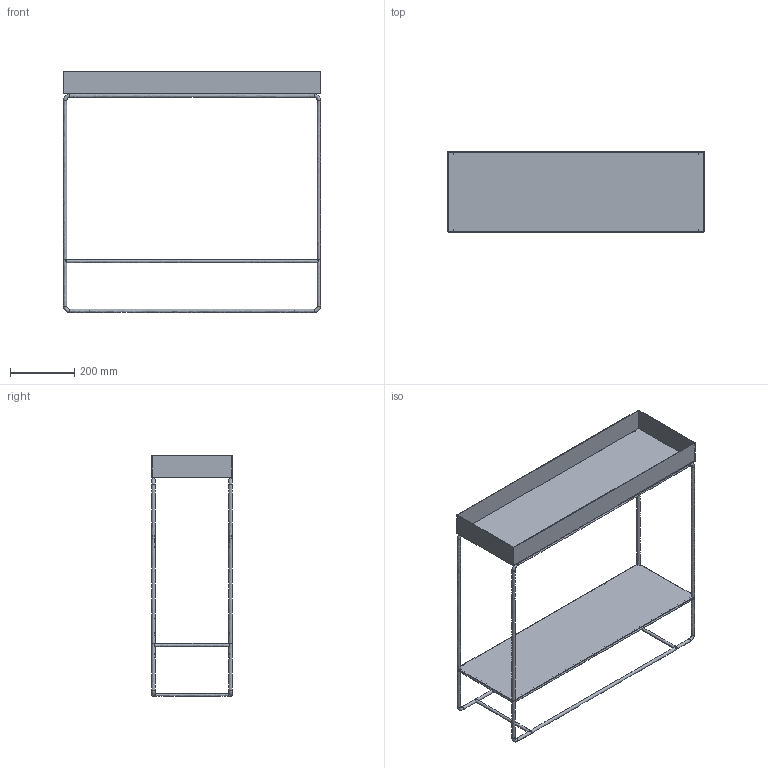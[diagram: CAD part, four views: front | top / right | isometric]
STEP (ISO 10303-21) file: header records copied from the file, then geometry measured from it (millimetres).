
FILE_DESCRIPTION(/* description */ (''),/* implementation_level */ '2;1');
FILE_NAME(/* name */ 'PY9XEQ~U',/* time_stamp */ '2020-03-27T16:37:15+01:00',/* author */ (''),/* organization */ (''),/* preprocessor_version */ 'ST-DEVELOPER v16.5',/* originating_system */ '',/* authorisation */ '');
FILE_SCHEMA (('AUTOMOTIVE_DESIGN'));
Length unit declared in the file: millimetre
Products named in the file (1): Document
Bounding box: 800 x 250 x 750 mm (x, y, z)
Volume: 2019311.7 mm3; surface area: 1345508 mm2
Topology: 16 solids, 16 shells, 87 faces, 166 edges, 106 vertices
Faces by surface type: bspline 63, plane 24
Entity records: 5026 total; most frequent: CARTESIAN_POINT 3801, ORIENTED_EDGE 314, EDGE_CURVE 157, VERTEX_POINT 98, B_SPLINE_CURVE_WITH_KNOTS 93, ADVANCED_FACE 87, FACE_OUTER_BOUND 87, EDGE_LOOP 87
